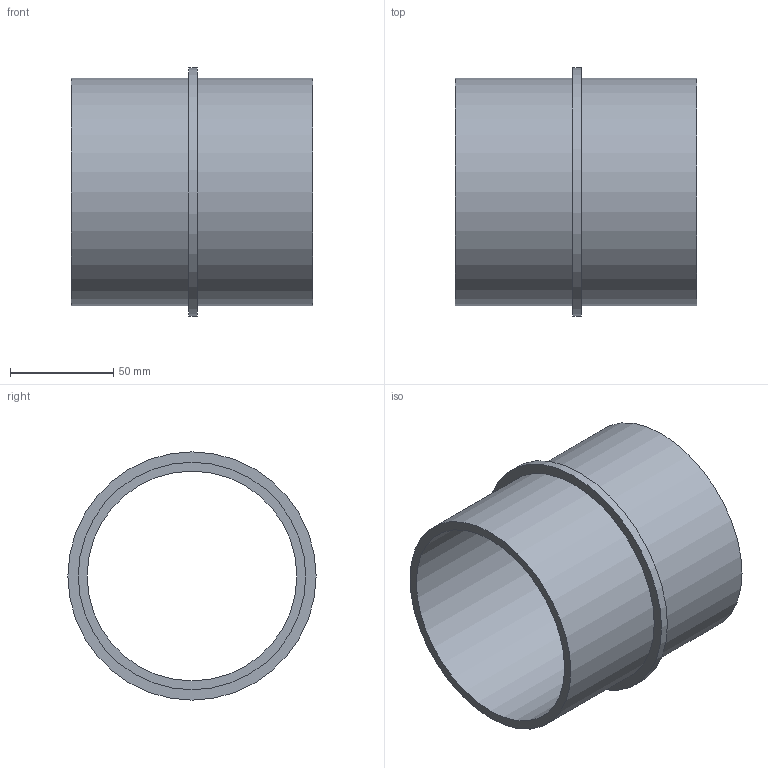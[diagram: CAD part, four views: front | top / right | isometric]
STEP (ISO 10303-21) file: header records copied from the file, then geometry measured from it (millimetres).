
FILE_DESCRIPTION(/* description */ (''),/* implementation_level */ '2;1');
FILE_NAME(/* name */ 'Z:\Geberit\Export\NewStep\Bundbüchse_Einzelteil\stp\367772.stp',/* time_stamp */ '2014-04-03T12:06:54+02:00',/* author */ ('nelson'),/* organization */ (''),/* preprocessor_version */ 'ST-DEVELOPER v15.2',/* originating_system */ 'Autodesk Inventor 2014',/* authorisation */ '');
FILE_SCHEMA (('AUTOMOTIVE_DESIGN { 1 0 10303 214 3 1 1 }'));
Length unit declared in the file: millimetre
Products named in the file (1): 367772
Bounding box: 117 x 120 x 120 mm (x, y, z)
Volume: 174288.2 mm3; surface area: 84297.8 mm2
Topology: 1 solids, 1 shells, 8 faces, 12 edges, 8 vertices
Faces by surface type: cylinder 4, plane 4
Full cylindrical faces by diameter (mm): 101.4 x1, 110 x2, 120 x1
Entity records: 190 total; most frequent: DIRECTION 34, CARTESIAN_POINT 25, AXIS2_PLACEMENT_3D 17, EDGE_LOOP 16, ORIENTED_EDGE 16, FACE_BOUND 10, CIRCLE 8, VERTEX_POINT 8
